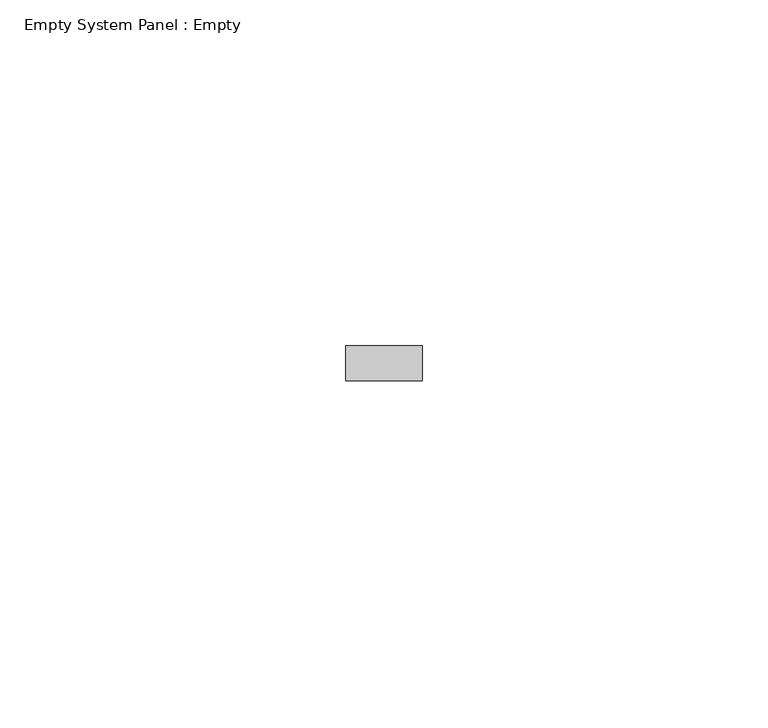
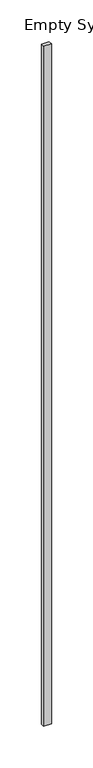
"""IFC4 building model written with IfcOpenShell, lengths in millimetres: plate geometry, Empty System Panel : Empty."""

from ifc_helpers import new_model, si_unit, origin, origin_with_axes, place, context, project, spatial, polyline, outline, extrude, source, transform, mapped, element, save


def empty_system_panel_empty_bd5c2647(model_context):
    return source(origin(), model_context, "Body", "SweptSolid", [
        extrude(outline(polyline([(5.4999998, 97.5), (-5.4999998, 97.5), (-5.4999998, 102.5), (5.4999998, 102.5), (5.4999998, 97.5)])), origin_with_axes(), (0.0, 0.0, 1.0), 1000.0),
    ])


if __name__ == "__main__":
    model = new_model("IFC4")
    model_context = context("Model", 3, world=origin())
    ifc_project = project(units=[si_unit("LENGTHUNIT", "METRE", prefix="MILLI")], contexts=[model_context])
    site = spatial("IfcSite", under=ifc_project)
    building = spatial("IfcBuilding", under=site)
    placement = place(None, origin())
    empty_system_panel_empty_shape = empty_system_panel_empty_bd5c2647(model_context)
    element("IfcPlate", 1, ObjectType="Empty System Panel : Empty", at=placement, inside=building, context=model_context, shape_type="MappedRepresentation", body=[
        mapped(empty_system_panel_empty_shape, transform((0.0, 0.0, 0.0), x_axis=(1.0, 0.0, 0.0), y_axis=(0.0, 1.0, 0.0), z_axis=(0.0, 0.0, 1.0))),
    ])
    save(model, "model.ifc")
